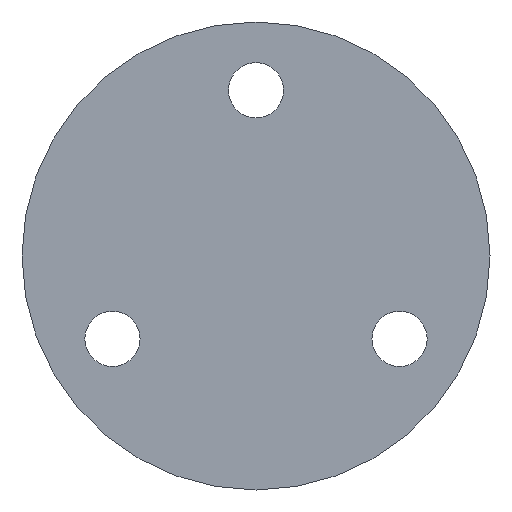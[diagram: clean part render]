
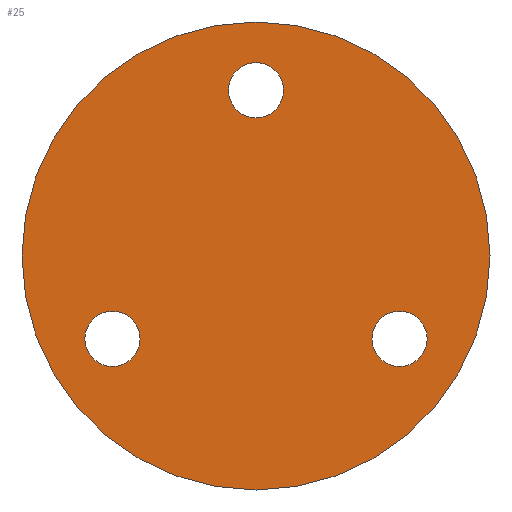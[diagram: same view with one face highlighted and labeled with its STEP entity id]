
A CAD part, front view. The second image highlights one B-rep face of the part: STEP entity #25.
In plain terms, the highlighted planar face has unit normal (0, -1, 0).
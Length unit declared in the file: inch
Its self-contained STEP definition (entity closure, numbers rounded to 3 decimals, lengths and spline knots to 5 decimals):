
#14 = ORIENTED_EDGE ( 'NONE', *, *, #166, .T. ) ;
#17 = ORIENTED_EDGE ( 'NONE', *, *, #227, .T. ) ;
#18 = ORIENTED_EDGE ( 'NONE', *, *, #178, .T. ) ;
#25 = ADVANCED_FACE ( 'NONE', ( #79, #71, #76, #66 ), #394, .F. ) ;
#46 = CIRCLE ( 'NONE', #219, 0.0885 ) ;
#47 = CIRCLE ( 'NONE', #214, 0.75 ) ;
#48 = CIRCLE ( 'NONE', #156, 0.0885 ) ;
#66 = FACE_OUTER_BOUND ( 'NONE', #493, .T. ) ;
#71 = FACE_BOUND ( 'NONE', #506, .T. ) ;
#76 = FACE_BOUND ( 'NONE', #490, .T. ) ;
#79 = FACE_BOUND ( 'NONE', #492, .T. ) ;
#82 = CIRCLE ( 'NONE', #151, 0.75 ) ;
#83 = CIRCLE ( 'NONE', #191, 0.0885 ) ;
#105 = CIRCLE ( 'NONE', #202, 0.0885 ) ;
#108 = CIRCLE ( 'NONE', #200, 0.0885 ) ;
#117 = CIRCLE ( 'NONE', #203, 0.0885 ) ;
#145 = AXIS2_PLACEMENT_3D ( 'NONE', #411, #395, #373 ) ;
#151 = AXIS2_PLACEMENT_3D ( 'NONE', #449, #450, #451 ) ;
#156 = AXIS2_PLACEMENT_3D ( 'NONE', #335, #328, #327 ) ;
#166 = EDGE_CURVE ( 'NONE', #414, #425, #117, .T. ) ;
#168 = EDGE_CURVE ( 'NONE', #418, #415, #82, .T. ) ;
#172 = EDGE_CURVE ( 'NONE', #425, #414, #105, .T. ) ;
#178 = EDGE_CURVE ( 'NONE', #391, #424, #108, .T. ) ;
#184 = EDGE_CURVE ( 'NONE', #422, #428, #83, .T. ) ;
#191 = AXIS2_PLACEMENT_3D ( 'NONE', #243, #242, #240 ) ;
#200 = AXIS2_PLACEMENT_3D ( 'NONE', #236, #241, #244 ) ;
#202 = AXIS2_PLACEMENT_3D ( 'NONE', #298, #306, #288 ) ;
#203 = AXIS2_PLACEMENT_3D ( 'NONE', #444, #445, #446 ) ;
#214 = AXIS2_PLACEMENT_3D ( 'NONE', #338, #331, #330 ) ;
#219 = AXIS2_PLACEMENT_3D ( 'NONE', #343, #334, #333 ) ;
#225 = EDGE_CURVE ( 'NONE', #428, #422, #46, .T. ) ;
#226 = EDGE_CURVE ( 'NONE', #415, #418, #47, .T. ) ;
#227 = EDGE_CURVE ( 'NONE', #424, #391, #48, .T. ) ;
#232 = CARTESIAN_POINT ( 'NONE',  ( 0., 0., 0.75 ) ) ;
#236 = CARTESIAN_POINT ( 'NONE',  ( 0.46008, 0., -0.26562 ) ) ;
#240 = DIRECTION ( 'NONE',  ( 0., 0., 1. ) ) ;
#241 = DIRECTION ( 'NONE',  ( 0., 1., 0. ) ) ;
#242 = DIRECTION ( 'NONE',  ( 0., 1., 0. ) ) ;
#243 = CARTESIAN_POINT ( 'NONE',  ( 0., 0., 0.53125 ) ) ;
#244 = DIRECTION ( 'NONE',  ( 0., 0., 1. ) ) ;
#261 = CARTESIAN_POINT ( 'NONE',  ( 0., 0., 0.44275 ) ) ;
#262 = CARTESIAN_POINT ( 'NONE',  ( -0.46008, 0., -0.35413 ) ) ;
#264 = CARTESIAN_POINT ( 'NONE',  ( 0.46008, 0., -0.17712 ) ) ;
#280 = CARTESIAN_POINT ( 'NONE',  ( 0., 0., 0.61975 ) ) ;
#288 = DIRECTION ( 'NONE',  ( 0., 0., 1. ) ) ;
#292 = CARTESIAN_POINT ( 'NONE',  ( 0., 0., -0.75 ) ) ;
#293 = CARTESIAN_POINT ( 'NONE',  ( -0.46008, 0., -0.17713 ) ) ;
#298 = CARTESIAN_POINT ( 'NONE',  ( -0.46008, 0., -0.26563 ) ) ;
#306 = DIRECTION ( 'NONE',  ( 0., 1., 0. ) ) ;
#309 = CARTESIAN_POINT ( 'NONE',  ( 0.46008, 0., -0.35412 ) ) ;
#327 = DIRECTION ( 'NONE',  ( 0., 0., 1. ) ) ;
#328 = DIRECTION ( 'NONE',  ( 0., 1., 0. ) ) ;
#330 = DIRECTION ( 'NONE',  ( 0., 0., 1. ) ) ;
#331 = DIRECTION ( 'NONE',  ( 0., 1., 0. ) ) ;
#333 = DIRECTION ( 'NONE',  ( 0., 0., 1. ) ) ;
#334 = DIRECTION ( 'NONE',  ( 0., 1., 0. ) ) ;
#335 = CARTESIAN_POINT ( 'NONE',  ( 0.46008, 0., -0.26562 ) ) ;
#338 = CARTESIAN_POINT ( 'NONE',  ( 0., 0., 0. ) ) ;
#343 = CARTESIAN_POINT ( 'NONE',  ( 0., 0., 0.53125 ) ) ;
#373 = DIRECTION ( 'NONE',  ( 0., 0., 1. ) ) ;
#391 = VERTEX_POINT ( 'NONE', #309 ) ;
#394 = PLANE ( 'NONE',  #145 ) ;
#395 = DIRECTION ( 'NONE',  ( 0., 1., 0. ) ) ;
#411 = CARTESIAN_POINT ( 'NONE',  ( 0., 0., 0. ) ) ;
#414 = VERTEX_POINT ( 'NONE', #293 ) ;
#415 = VERTEX_POINT ( 'NONE', #292 ) ;
#418 = VERTEX_POINT ( 'NONE', #232 ) ;
#422 = VERTEX_POINT ( 'NONE', #261 ) ;
#424 = VERTEX_POINT ( 'NONE', #264 ) ;
#425 = VERTEX_POINT ( 'NONE', #262 ) ;
#428 = VERTEX_POINT ( 'NONE', #280 ) ;
#444 = CARTESIAN_POINT ( 'NONE',  ( -0.46008, 0., -0.26563 ) ) ;
#445 = DIRECTION ( 'NONE',  ( 0., 1., 0. ) ) ;
#446 = DIRECTION ( 'NONE',  ( 0., 0., 1. ) ) ;
#449 = CARTESIAN_POINT ( 'NONE',  ( 0., 0., 0. ) ) ;
#450 = DIRECTION ( 'NONE',  ( 0., 1., 0. ) ) ;
#451 = DIRECTION ( 'NONE',  ( 0., 0., 1. ) ) ;
#459 = ORIENTED_EDGE ( 'NONE', *, *, #184, .T. ) ;
#460 = ORIENTED_EDGE ( 'NONE', *, *, #225, .T. ) ;
#467 = ORIENTED_EDGE ( 'NONE', *, *, #168, .F. ) ;
#474 = ORIENTED_EDGE ( 'NONE', *, *, #226, .F. ) ;
#490 = EDGE_LOOP ( 'NONE', ( #460, #459 ) ) ;
#492 = EDGE_LOOP ( 'NONE', ( #17, #18 ) ) ;
#493 = EDGE_LOOP ( 'NONE', ( #474, #467 ) ) ;
#506 = EDGE_LOOP ( 'NONE', ( #14, #516 ) ) ;
#516 = ORIENTED_EDGE ( 'NONE', *, *, #172, .T. ) ;
